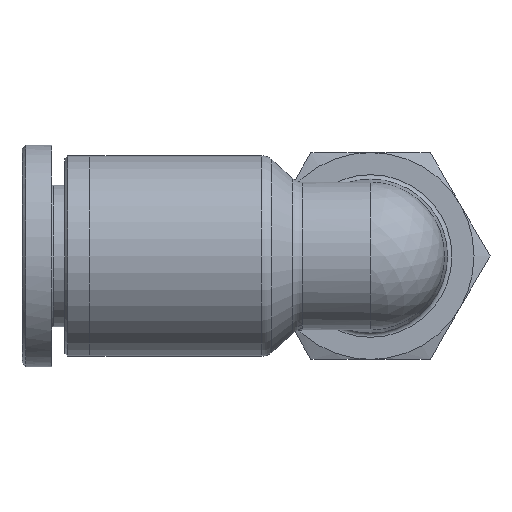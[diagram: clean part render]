
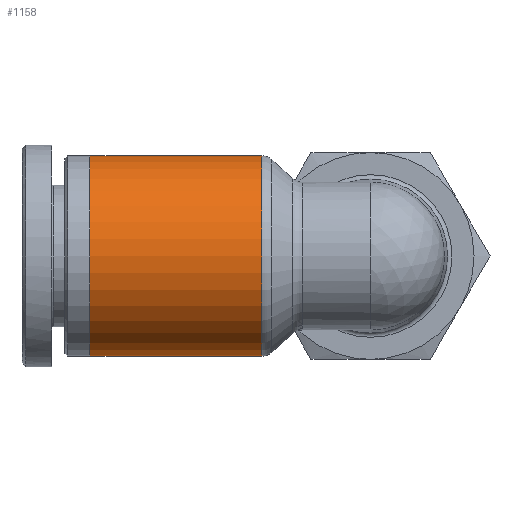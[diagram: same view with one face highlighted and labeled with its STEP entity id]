
A CAD part, left-side view. The second image highlights one B-rep face of the part: STEP entity #1158.
In plain terms, the highlighted cylindrical face has radius 6.8 mm (diameter 13.6 mm), a full revolution.
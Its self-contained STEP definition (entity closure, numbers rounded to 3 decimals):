
#1107=CARTESIAN_POINT('',(7.384,6.8,0.));
#1108=VERTEX_POINT('',#1107);
#1109=CARTESIAN_POINT('',(7.384,0.0,0.0));
#1110=DIRECTION('',(-1.0,0.0,0.0));
#1111=DIRECTION('',(0.0,-1.0,0.0));
#1112=AXIS2_PLACEMENT_3D('',#1109,#1110,#1111);
#1113=CIRCLE('',#1112,6.8);
#1114=EDGE_CURVE('',#1108,#1108,#1113,.T.);
#1139=CARTESIAN_POINT('',(13.0,0.0,0.0));
#1140=DIRECTION('',(1.0,0.0,0.0));
#1141=DIRECTION('',(0.0,1.0,0.0));
#1142=AXIS2_PLACEMENT_3D('',#1139,#1140,#1141);
#1143=CYLINDRICAL_SURFACE('',#1142,6.8);
#1144=CARTESIAN_POINT('',(19.0,6.8,0.0));
#1145=VERTEX_POINT('',#1144);
#1146=CARTESIAN_POINT('',(19.0,0.0,0.0));
#1147=DIRECTION('',(1.0,0.0,0.0));
#1148=DIRECTION('',(0.0,1.0,0.0));
#1149=AXIS2_PLACEMENT_3D('',#1146,#1147,#1148);
#1150=CIRCLE('',#1149,6.8);
#1151=EDGE_CURVE('',#1145,#1145,#1150,.T.);
#1152=ORIENTED_EDGE('',*,*,#1151,.F.);
#1153=EDGE_LOOP('',(#1152));
#1154=FACE_OUTER_BOUND('',#1153,.T.);
#1155=ORIENTED_EDGE('',*,*,#1114,.F.);
#1156=EDGE_LOOP('',(#1155));
#1157=FACE_BOUND('',#1156,.T.);
#1158=ADVANCED_FACE('',(#1154,#1157),#1143,.T.);
